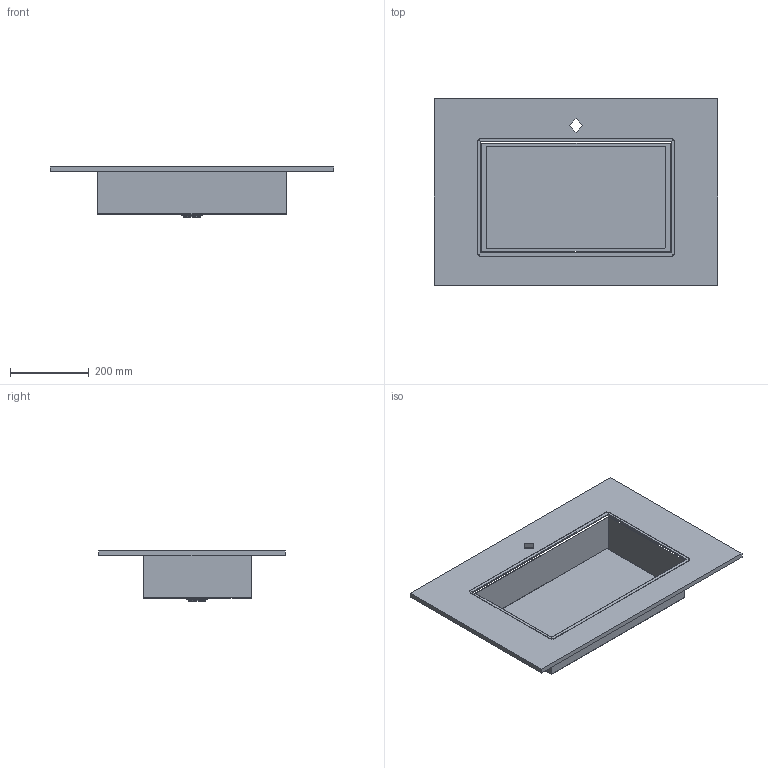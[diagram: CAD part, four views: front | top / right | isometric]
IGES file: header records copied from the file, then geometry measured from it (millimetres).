
Start section: Data from Parasolid IGES Translator 22.0.50, Copyright(c) 2006 Siemens P LM Software. All Rights Reserved.
Global section: file name: noorth-top-H 2 D 47,2 W 72_5461.igs; native system: By Siemens PLM Incorporated; preprocessor: XPlus GENERIC/IGES 22.0.50; author: Noname; organization: Noname; date: 20251109.201750; units: metre
Bounding box: 720 x 473 x 127.88 mm (x, y, z)
Volume: 20239839 mm3; surface area: 2788533.9 mm2
Topology: 3 solids, 3 shells, 3062 faces, 9071 edges, 8946 vertices
Faces by surface type: extrusion 2957, plane 66, bspline 34, cylinder 5
Full cylindrical faces by diameter (mm): 34.697 x1
